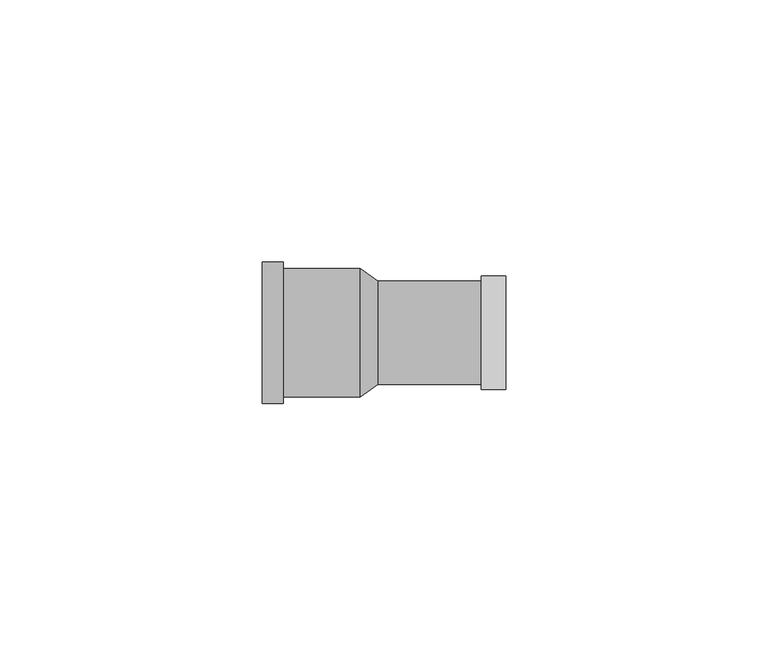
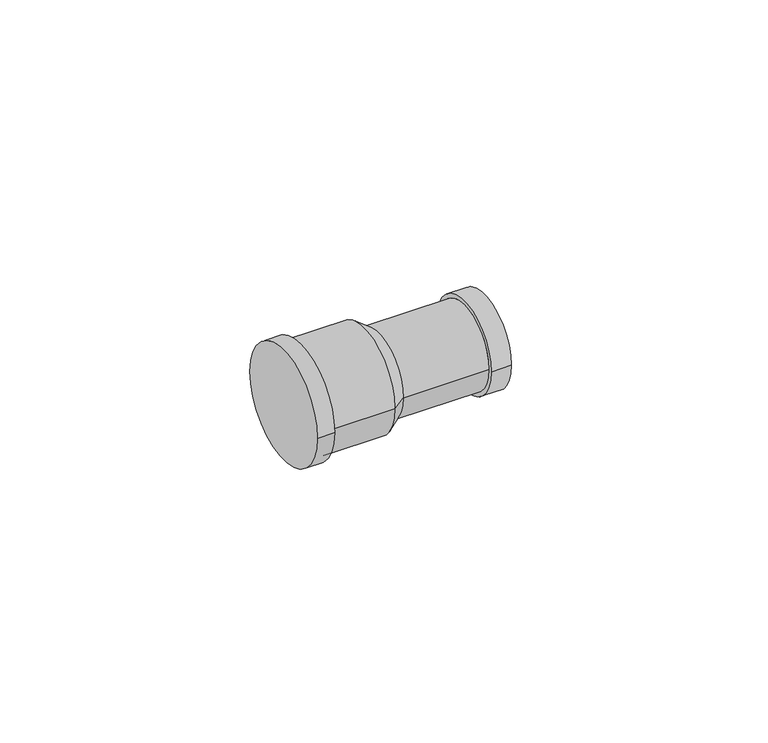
"""IFC4 building model written with IfcOpenShell, lengths in millimetres: pipe fitting geometry, Redutor de acoplamento - PVC - CW : Padrão."""

from ifc_helpers import new_model, si_unit, frame, origin, place, context, project, spatial, polyline, circle_curve, source, transform, mapped, element, save
from ifc_brep_helpers import plane_surface, cylinder_surface, revolved_surface, advanced_brep


def pipe_fitting_cf389c47(model_context):
    return source(origin(), model_context, "Body", "AdvancedBrep", [
        advanced_brep(
        [(18.706, 12.25, 0.0), (21.982, 9.8588, 0.0), (21.982, -9.8588, 0.0), (18.706, -12.25, 0.0), (0.0, -13.475, 0.0), (0.0, 13.475, 0.0), (4.0, -12.25, 0.0), (4.0, 12.25, 0.0), (4.0, -13.475, 0.0), (4.0, 13.475, 0.0), (46.382, 10.84468, 0.0), (46.382, -10.84468, 0.0), (41.70854, -9.8588, 0.0), (41.70854, 9.8588, 0.0), (41.70854, 10.84468, 0.0), (41.70854, -10.84468, 0.0)],
        [
            (0, 1),
            (1, 2, circle_curve(frame((21.982, 0.0, 0.0), z_axis=(-1.0, 0.0, 0.0), x_axis=(0.0, -1.0, 0.0)), 9.8588)),
            (2, 3),
            (3, 0, circle_curve(frame((18.706, 0.0, 0.0), z_axis=(1.0, 0.0, 0.0), x_axis=(0.0, -1.0, 0.0)), 12.25)),
            (0, 3, circle_curve(frame((18.706, 0.0, 0.0), z_axis=(1.0, 0.0, 0.0), x_axis=(0.0, 1.0, 0.0)), 12.25)),
            (2, 1, circle_curve(frame((21.982, 0.0, 0.0), z_axis=(-1.0, 0.0, 0.0), x_axis=(0.0, 1.0, 0.0)), 9.8588)),
            (4, 5, circle_curve(frame((0.0, 0.0, 0.0), z_axis=(-1.0, 0.0, 0.0), x_axis=(0.0, 1.0, 0.0)), 13.475)),
            (5, 4, circle_curve(frame((0.0, 0.0, 0.0), z_axis=(-1.0, 0.0, 0.0), x_axis=(0.0, 1.0, 0.0)), 13.475)),
            (6, 3),
            (0, 7),
            (7, 6, circle_curve(frame((4.0, 0.0, 0.0), z_axis=(1.0, 0.0, 0.0), x_axis=(0.0, 1.0, 0.0)), 12.25)),
            (6, 7, circle_curve(frame((4.0, 0.0, 0.0), z_axis=(1.0, 0.0, 0.0), x_axis=(0.0, 1.0, 0.0)), 12.25)),
            (8, 9, circle_curve(frame((4.0, 0.0, 0.0), z_axis=(1.0, 0.0, 0.0), x_axis=(0.0, 1.0, 0.0)), 13.475)),
            (9, 8, circle_curve(frame((4.0, 0.0, 0.0), z_axis=(1.0, 0.0, 0.0), x_axis=(0.0, 1.0, 0.0)), 13.475)),
            (4, 8),
            (9, 5),
            (10, 11, circle_curve(frame((46.382, 0.0, 0.0), z_axis=(1.0, 0.0, 0.0), x_axis=(0.0, -1.0, 0.0)), 10.84468)),
            (11, 10, circle_curve(frame((46.382, 0.0, 0.0), z_axis=(1.0, 0.0, 0.0), x_axis=(0.0, -1.0, 0.0)), 10.84468)),
            (2, 12),
            (12, 13, circle_curve(frame((41.70854, 0.0, 0.0), z_axis=(-1.0, 0.0, 0.0), x_axis=(0.0, 1.0, 0.0)), 9.8588)),
            (13, 1),
            (13, 12, circle_curve(frame((41.70854, 0.0, 0.0), z_axis=(-1.0, 0.0, 0.0), x_axis=(0.0, 1.0, 0.0)), 9.8588)),
            (14, 15, circle_curve(frame((41.70854, 0.0, 0.0), z_axis=(-1.0, 0.0, 0.0), x_axis=(0.0, -1.0, 0.0)), 10.84468)),
            (15, 14, circle_curve(frame((41.70854, 0.0, 0.0), z_axis=(-1.0, 0.0, 0.0), x_axis=(0.0, -1.0, 0.0)), 10.84468)),
            (10, 14),
            (15, 11),
        ],
        [
            revolved_surface(polyline([(21.982, 9.858800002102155, 0.0), (18.706, 12.25, 0.0)]), (35.4887869, 0.0, 0.0), (-1.0, 0.0, 0.0)),
            plane_surface(frame((0.0, 0.0, 0.0), z_axis=(-1.0, 0.0, 0.0), x_axis=(0.0, 0.0, 1.0))),
            cylinder_surface(frame((0.0, 0.0, 0.0), z_axis=(-1.0, 0.0, 0.0), x_axis=(0.0, 1.0, 0.0)), 12.25),
            plane_surface(frame((4.0, 0.0, 0.0), z_axis=(1.0, 0.0, 0.0), x_axis=(0.0, 0.0, 1.0))),
            cylinder_surface(frame((0.0, 0.0, 0.0), z_axis=(-1.0, 0.0, 0.0), x_axis=(0.0, 1.0, 0.0)), 13.475),
            plane_surface(frame((46.382, 0.0, 0.0), z_axis=(1.0, 0.0, 0.0), x_axis=(0.0, 0.0, 1.0))),
            cylinder_surface(frame((21.982, 0.0, 0.0), z_axis=(-1.0, 0.0, 0.0), x_axis=(0.0, 1.0, 0.0)), 9.8588),
            plane_surface(frame((41.70854, 0.0, 0.0), z_axis=(-1.0, 0.0, 0.0), x_axis=(0.0, 0.0, 1.0))),
            cylinder_surface(frame((46.382, 0.0, 0.0), z_axis=(1.0, 0.0, 0.0), x_axis=(0.0, -1.0, 0.0)), 10.84468),
        ],
        [
            (0, [[1, 2, 3, 4]]),
            (0, [[-1, 5, -3, 6]]),
            (1, [[7, 8]]),
            (2, [[9, -5, 10, 11]]),
            (2, [[-9, 12, -10, -4]]),
            (3, [[13, 14], [-11, -12]]),
            (4, [[-7, 15, -14, 16]]),
            (4, [[-8, -16, -13, -15]]),
            (5, [[17, 18]]),
            (6, [[19, 20, 21, -6]]),
            (6, [[-19, -2, -21, 22]]),
            (7, [[23, 24], [-20, -22]]),
            (8, [[-17, 25, -24, 26]]),
            (8, [[-18, -26, -23, -25]]),
        ],
    ),
    ])


if __name__ == "__main__":
    model = new_model("IFC4")
    model_context = context("Model", 3, world=origin())
    ifc_project = project(units=[si_unit("LENGTHUNIT", "METRE", prefix="MILLI")], contexts=[model_context])
    site = spatial("IfcSite", under=ifc_project)
    building = spatial("IfcBuilding", under=site)
    placement = place(None, origin())
    pipe_fitting_shape = pipe_fitting_cf389c47(model_context)
    element("IfcPipeFitting", 1, ObjectType="Redutor de acoplamento - PVC - CW : Padrão", at=placement, inside=building, context=model_context, shape_type="MappedRepresentation", body=[
        mapped(pipe_fitting_shape, transform((0.0, 0.0, 0.0), x_axis=(1.0, 0.0, 0.0), y_axis=(0.0, 1.0, 0.0), z_axis=(0.0, 0.0, 1.0))),
    ])
    save(model, "model.ifc")
